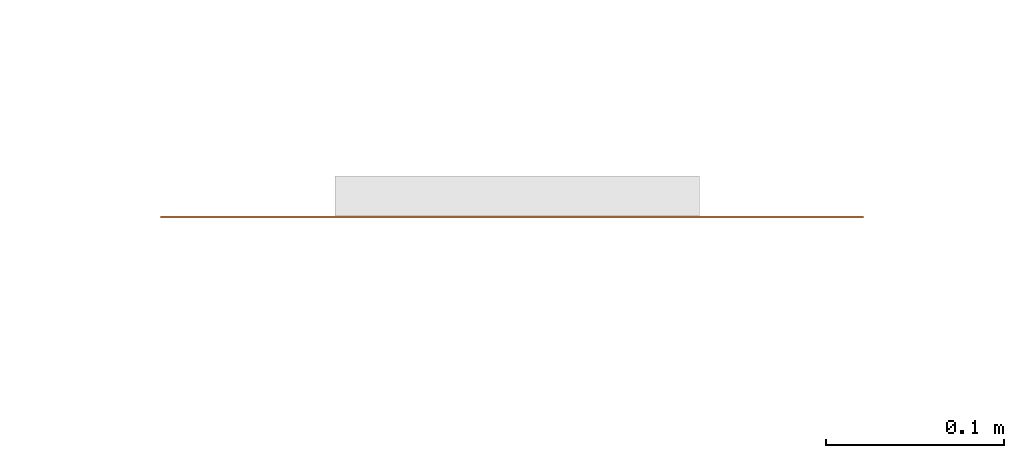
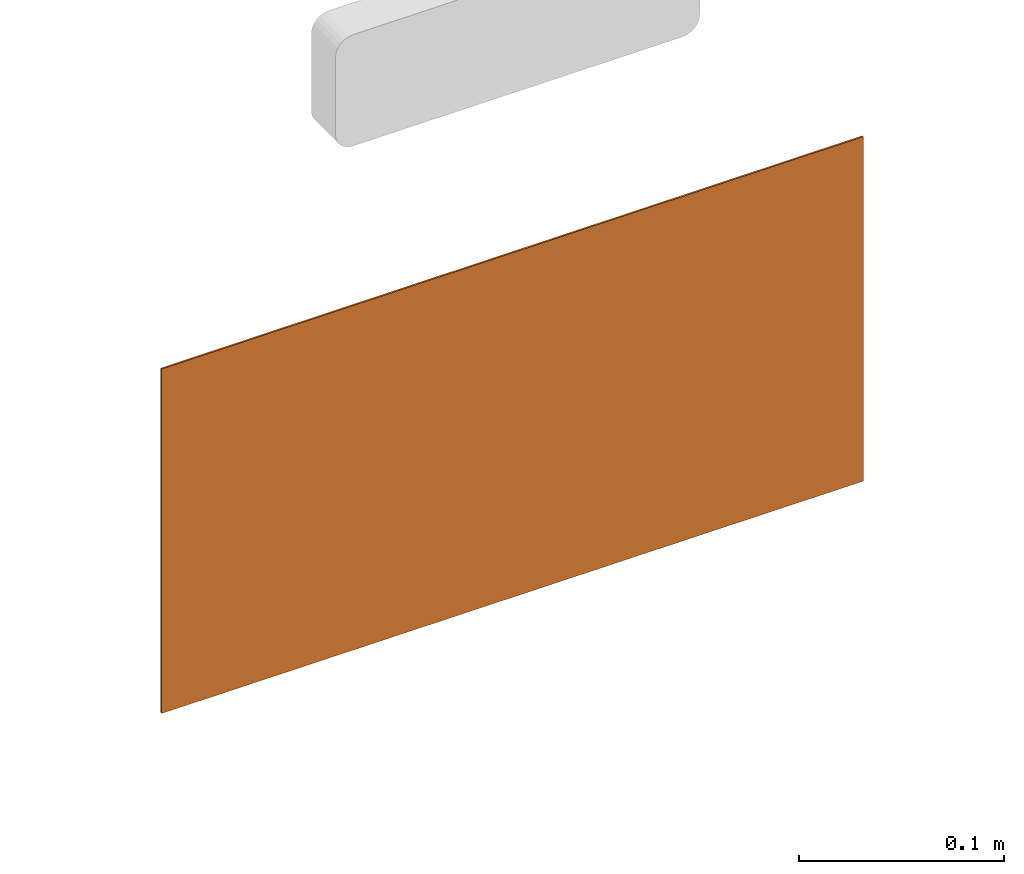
# One storey, part 115 of 119: 1 proxy.
"""IFC2X3 building model written with IfcOpenShell, lengths in metres."""

from ifc_helpers import new_model, entity, si_unit, converted_unit, derived_unit, direction, frame, origin, origin_2d_with_axis, place, context, subcontext, project, spatial, polyline, rectangle, outline, extrude, source, transform, mapped, material, material_list, type_object, type_shapes, element, save


model = new_model("IFC2X3")

# Units and contexts
model_context = context("Model", 3, precision=1e-05, world=origin(), true_north=direction((6.12303176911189e-17, 1.0)))
body_context = subcontext(model_context, "Body", "Model", "MODEL_VIEW")
ifc_project = project(units=[si_unit("LENGTHUNIT", "METRE"), si_unit("AREAUNIT", "SQUARE_METRE"), si_unit("VOLUMEUNIT", "CUBIC_METRE"), converted_unit("PLANEANGLEUNIT", "DEGREE", entity("IfcRatioMeasure", 0.0174532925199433), si_unit("PLANEANGLEUNIT", "RADIAN"), dimensions=[0, 0, 0, 0, 0, 0, 0]), si_unit("MASSUNIT", "GRAM", prefix="KILO"), derived_unit("MASSDENSITYUNIT", [(si_unit("MASSUNIT", "GRAM", prefix="KILO"), 1), (si_unit("LENGTHUNIT", "METRE"), -3)]), derived_unit("MOMENTOFINERTIAUNIT", [(si_unit("LENGTHUNIT", "METRE"), 4)]), si_unit("TIMEUNIT", "SECOND"), si_unit("FREQUENCYUNIT", "HERTZ"), si_unit("THERMODYNAMICTEMPERATUREUNIT", "DEGREE_CELSIUS"), derived_unit("THERMALTRANSMITTANCEUNIT", [(si_unit("MASSUNIT", "GRAM", prefix="KILO"), 1), (si_unit("THERMODYNAMICTEMPERATUREUNIT", "KELVIN"), -1), (si_unit("TIMEUNIT", "SECOND"), -3)]), derived_unit("VOLUMETRICFLOWRATEUNIT", [(si_unit("LENGTHUNIT", "METRE"), 3), (si_unit("TIMEUNIT", "SECOND"), -1)]), si_unit("ELECTRICCURRENTUNIT", "AMPERE"), si_unit("ELECTRICVOLTAGEUNIT", "VOLT"), si_unit("POWERUNIT", "WATT"), si_unit("FORCEUNIT", "NEWTON", prefix="KILO"), si_unit("ILLUMINANCEUNIT", "LUX"), si_unit("LUMINOUSFLUXUNIT", "LUMEN"), si_unit("LUMINOUSINTENSITYUNIT", "CANDELA"), derived_unit("USERDEFINED", [(si_unit("MASSUNIT", "GRAM", prefix="KILO"), -1), (si_unit("LENGTHUNIT", "METRE"), -2), (si_unit("TIMEUNIT", "SECOND"), 3), (si_unit("LUMINOUSFLUXUNIT", "LUMEN"), 1)]), derived_unit("LINEARVELOCITYUNIT", [(si_unit("LENGTHUNIT", "METRE"), 1), (si_unit("TIMEUNIT", "SECOND"), -1)]), si_unit("PRESSUREUNIT", "PASCAL"), derived_unit("USERDEFINED", [(si_unit("LENGTHUNIT", "METRE"), -2), (si_unit("MASSUNIT", "GRAM", prefix="KILO"), 1), (si_unit("TIMEUNIT", "SECOND"), -2)]), derived_unit("LINEARFORCEUNIT", [(si_unit("MASSUNIT", "GRAM", prefix="KILO"), 1), (si_unit("LENGTHUNIT", "METRE"), 1), (si_unit("TIMEUNIT", "SECOND"), -2), (si_unit("LENGTHUNIT", "METRE"), -1)]), derived_unit("PLANARFORCEUNIT", [(si_unit("MASSUNIT", "GRAM", prefix="KILO"), 1), (si_unit("LENGTHUNIT", "METRE"), 1), (si_unit("TIMEUNIT", "SECOND"), -2), (si_unit("LENGTHUNIT", "METRE"), -2)])], contexts=[model_context])

# Site, building, storey
site_placement = place(None, origin())
site = spatial("IfcSite", under=ifc_project, at=site_placement, Name="Default", CompositionType="ELEMENT")
building_placement = place(site_placement, origin())
building = spatial("IfcBuilding", under=site, at=building_placement, CompositionType="ELEMENT")
storey_placement = place(building_placement, origin())
storey = spatial("IfcBuildingStorey", under=building, at=storey_placement, Name="PAV. 01 - TÉRREO", CompositionType="ELEMENT", Elevation=0.0)

# Proxy
ifc_material_1 = material(Name="Plastico branco")
ifc_material_2 = material(Name="Plastico Verde")
ifc_material_list = material_list([ifc_material_1, ifc_material_2])
building_element_proxy_type = type_object("IfcBuildingElementProxyType", Name="Sinalização de orientação - S12 - Saída de emergência:Distância 12m", PredefinedType="NOTDEFINED", material=ifc_material_1)
shared_shape = source(origin(), body_context, "Body", "SweptSolid", [
    extrude(outline(polyline([(0.022665, -0.0273549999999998), (0.042445, -0.0273549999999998), (0.0110050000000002, 0.0634649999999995), (-0.0110349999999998, 0.0634649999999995), (-0.0429350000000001, -0.0273549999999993), (-0.0221550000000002, -0.0273549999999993), (-0.016355, -0.00875499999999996), (0.016365, -0.00875499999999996), (0.022665, -0.0273549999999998)]), holes=[polyline([(-0.0110349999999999, 0.00694499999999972), (8.50000000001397e-05, 0.0430049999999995), (0.011005, 0.00694499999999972), (-0.0110349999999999, 0.00694499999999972)])]), frame((0.137065, -0.0011, 2.284875), z_axis=(0.0, 1.0, 0.0), x_axis=(-1.0, 0.0, 0.0)), (0.0, 0.0, 1.0), 0.0011),
    extrude(outline(polyline([(0.00101999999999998, -0.00920000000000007), (0.01344, -0.00920000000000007), (0.00198000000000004, 0.00920000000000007), (-0.01644, 0.00920000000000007), (0.00101999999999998, -0.00920000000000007)])), frame((0.0041799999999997, -0.0011, 2.36684), z_axis=(0.0, 1.0, 0.0), x_axis=(-1.0, 0.0, 0.0)), (0.0, 0.0, 1.0), 0.0011),
    extrude(rectangle(XDim=0.0011, YDim=0.0186200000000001, at=origin_2d_with_axis()), frame((-0.00221000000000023, -0.00055, 2.25752), z_axis=(0.0, 0.0, 1.0), x_axis=(0.0, 1.0, 0.0)), (0.0, 0.0, 1.0), 0.0908200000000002),
    extrude(outline(polyline([(0.0226224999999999, -0.0273550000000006), (0.0423824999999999, -0.0273550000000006), (0.0109625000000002, 0.0634649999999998), (-0.0110974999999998, 0.0634649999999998), (-0.0425575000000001, -0.0273550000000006), (-0.0222175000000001, -0.0273550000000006), (-0.0164175, -0.0087550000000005), (0.0163224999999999, -0.0087550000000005), (0.0226224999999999, -0.0273550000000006)]), holes=[polyline([(-0.0110975, 0.00694499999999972), (2.25000000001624e-05, 0.0430049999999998), (0.0109625, 0.00694499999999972), (-0.0110975, 0.00694499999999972)])]), frame((-0.0607575, -0.0011, 2.284875), z_axis=(0.0, 1.0, 0.0), x_axis=(-1.0, 0.0, 0.0)), (0.0, 0.0, 1.0), 0.0011),
    extrude(outline(polyline([(-0.0593637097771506, -0.0416627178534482), (-0.0235037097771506, -0.0416627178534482), (-0.0155782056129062, -0.0414882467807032), (-0.00944676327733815, -0.0408437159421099), (-0.00458257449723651, -0.0395474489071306), (-0.000458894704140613, -0.0374178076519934), (0.00332259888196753, -0.0343505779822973), (0.00676252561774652, -0.0304813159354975), (0.00978475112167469, -0.0259918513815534), (0.0123131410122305, -0.0210640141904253), (0.0142715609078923, -0.0158796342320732), (0.0156118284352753, -0.0106067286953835), (0.0164003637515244, -0.00535668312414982), (0.0167329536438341, -0.000226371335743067), (0.0167053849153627, 0.00468733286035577), (0.0164134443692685, 0.00928755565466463), (0.015941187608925, 0.013495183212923), (0.015248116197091, 0.0174196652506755), (0.0142186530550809, 0.0212841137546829), (0.0127361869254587, 0.0253132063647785), (0.0106841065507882, 0.0297316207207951), (0.00791520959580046, 0.0347197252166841), (0.00390106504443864, 0.0399057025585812), (-0.00214544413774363, 0.0445430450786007), (-0.0110163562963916, 0.0478781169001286), (-0.0235037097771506, 0.0491572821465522), (-0.0593637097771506, 0.0491572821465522), (-0.0593637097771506, -0.0416627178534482)]), holes=[polyline([(-0.0407237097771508, 0.0334572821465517), (-0.0235037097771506, 0.0334572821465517), (-0.0184804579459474, 0.0328719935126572), (-0.0143606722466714, 0.0313003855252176), (-0.01104861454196, 0.0290188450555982), (-0.00844854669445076, 0.0263037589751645), (-0.00646492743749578, 0.0234093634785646), (-0.00500366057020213, 0.0204273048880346), (-0.00397129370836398, 0.0173767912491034), (-0.00327437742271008, 0.0142766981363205), (-0.00281946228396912, 0.011145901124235), (-0.00251671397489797, 0.00800245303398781), (-0.00233816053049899, 0.0048503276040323), (-0.0023077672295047, 0.00168167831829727), (-0.00245111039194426, -0.00151170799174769), (-0.00279376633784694, -0.00473804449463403), (-0.00336131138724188, -0.00800554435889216), (-0.00418197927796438, -0.011308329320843), (-0.0053013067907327, -0.014548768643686), (-0.00677175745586, -0.0175925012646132), (-0.00864581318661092, -0.020305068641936), (-0.0109759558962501, -0.022552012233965), (-0.0137994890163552, -0.0242105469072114), (-0.0169857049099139, -0.0252871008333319), (-0.0202993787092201, -0.0258684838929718), (-0.0235037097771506, -0.0260427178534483), (-0.0407237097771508, -0.0260427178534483), (-0.0407237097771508, 0.0334572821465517)])]), frame((0.0799837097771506, -0.0011, 2.30667728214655), z_axis=(0.0, 1.0, 0.0), x_axis=(1.0, 0.0, 0.0)), (0.0, 0.0, 1.0), 0.0011),
    extrude(outline(polyline([(-0.0345626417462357, 0.0187657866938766), (-0.0167626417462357, 0.0187657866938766), (-0.0160026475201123, 0.021720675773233), (-0.0150953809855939, 0.0241733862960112), (-0.0140440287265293, 0.0261781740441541), (-0.012851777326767, 0.0277892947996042), (-0.0115218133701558, 0.0290610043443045), (-0.0100573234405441, 0.0300475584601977), (-0.00846149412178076, 0.0308032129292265), (-0.00673751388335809, 0.0313822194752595), (-0.00489394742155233, 0.0318272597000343), (-0.00295651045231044, 0.0321441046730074), (-0.000954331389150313, 0.0323311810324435), (0.00108346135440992, 0.0323869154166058), (0.00312773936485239, 0.0323097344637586), (0.00514937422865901, 0.0320980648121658), (0.00711923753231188, 0.031750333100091), (0.00900820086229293, 0.0312649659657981), (0.010785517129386, 0.0306342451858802), (0.0124132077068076, 0.0298229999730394), (0.0138512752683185, 0.0287883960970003), (0.0150597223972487, 0.0274875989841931), (0.0159985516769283, 0.0258777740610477), (0.0166277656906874, 0.023916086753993), (0.016907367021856, 0.0215597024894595), (0.0167973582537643, 0.0187657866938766), (0.0162828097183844, 0.0172001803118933), (0.015351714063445, 0.0158433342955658), (0.0140362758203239, 0.0146686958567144), (0.0123686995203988, 0.013649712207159), (0.0103811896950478, 0.0127598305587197), (0.00810595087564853, 0.0119724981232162), (0.0055751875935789, 0.0112611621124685), (0.00282110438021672, 0.0105992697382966), (-0.0097799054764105, 0.00791382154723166), (-0.0131404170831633, 0.0070931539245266), (-0.0164874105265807, 0.00615022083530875), (-0.0197677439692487, 0.00505251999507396), (-0.0229282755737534, 0.00376754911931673), (-0.0259158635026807, 0.00226280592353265), (-0.0286773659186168, 0.000505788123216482), (-0.0311596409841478, -0.00153600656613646), (-0.0333095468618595, -0.00389508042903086), (-0.0350739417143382, -0.00660393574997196), (-0.0363996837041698, -0.00969507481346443), (-0.0372336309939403, -0.0132009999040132), (-0.0375226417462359, -0.0171542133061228), (-0.0369526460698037, -0.0241320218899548), (-0.0352963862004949, -0.0300763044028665), (-0.0326321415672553, -0.0350438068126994), (-0.0290381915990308, -0.0390912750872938), (-0.0245928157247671, -0.0422754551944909), (-0.0193742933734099, -0.0446530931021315), (-0.0134609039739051, -0.0462809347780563), (-0.00693092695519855, -0.0472157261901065), (0.000137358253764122, -0.0475142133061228), (0.00635452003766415, -0.0471678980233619), (0.0122978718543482, -0.0461110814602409), (0.0178453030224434, -0.0443239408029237), (0.0228747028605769, -0.0417866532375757), (0.0272639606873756, -0.0384793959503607), (0.0308909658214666, -0.0343823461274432), (0.033633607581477, -0.0294756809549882), (0.0353697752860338, -0.0237395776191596), (0.0359773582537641, -0.0171542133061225), (0.017837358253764, -0.0171542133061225), (0.0175636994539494, -0.0202050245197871), (0.0167888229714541, -0.0228103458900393), (0.0155818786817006, -0.0250059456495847), (0.0140120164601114, -0.0268275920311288), (0.0121483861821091, -0.0283110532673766), (0.0100601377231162, -0.0294920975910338), (0.00781642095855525, -0.0304064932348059), (0.00548638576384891, -0.0310900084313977), (0.00313811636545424, -0.0315777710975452), (0.000813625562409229, -0.0318892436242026), (-0.0014720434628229, -0.0320276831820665), (-0.00370509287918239, -0.0319955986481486), (-0.0058717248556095, -0.0317954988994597), (-0.0079581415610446, -0.0314298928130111), (-0.0099505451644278, -0.0309012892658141), (-0.0118351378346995, -0.0302121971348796), (-0.0135981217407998, -0.0293651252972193), (-0.015220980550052, -0.028358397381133), (-0.0166571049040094, -0.0271654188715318), (-0.0178495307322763, -0.0257504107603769), (-0.0187412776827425, -0.0240775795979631), (-0.019275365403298, -0.0221111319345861), (-0.0193948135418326, -0.0198152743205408), (-0.019042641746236, -0.0171542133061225), (-0.0182619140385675, -0.0153706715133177), (-0.0167498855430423, -0.0138072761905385), (-0.014644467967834, -0.0124427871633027), (-0.0120835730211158, -0.0112559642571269), (-0.00920511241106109, -0.0102255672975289), (-0.00614699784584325, -0.00933035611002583), (-0.00304714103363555, -0.0085490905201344), (0.00854519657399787, -0.00601654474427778), (0.0112531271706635, -0.00536949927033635), (0.0138997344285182, -0.00465127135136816), (0.0164923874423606, -0.00382905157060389), (0.0190384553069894, -0.00287003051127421), (0.021545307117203, -0.00174139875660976), (0.024010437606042, -0.000408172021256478), (0.0263792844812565, 0.00117609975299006), (0.0285801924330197, 0.00306163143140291), (0.0305414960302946, 0.00529864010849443), (0.0321915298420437, 0.00793734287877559), (0.0334586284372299, 0.0110279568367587), (0.0342711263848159, 0.0146206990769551), (0.0345573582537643, 0.0187657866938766), (0.0342104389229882, 0.0241388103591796), (0.0331330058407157, 0.0291645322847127), (0.0312655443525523, 0.0337668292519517), (0.0285485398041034, 0.0378695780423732), (0.0249224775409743, 0.0413966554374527), (0.0203278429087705, 0.0442719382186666), (0.0147051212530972, 0.0464193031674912), (0.00799479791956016, 0.0477626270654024), (0.000137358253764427, 0.0482257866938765), (-0.00858861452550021, 0.047492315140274), (-0.0161916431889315, 0.0453797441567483), (-0.0225917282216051, 0.0420205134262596), (-0.0277088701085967, 0.0375470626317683), (-0.0314630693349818, 0.032091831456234), (-0.0337743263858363, 0.0257872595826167), (-0.0345626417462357, 0.0187657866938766)])), frame((-0.144022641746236, -0.0011, 2.30259421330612), z_axis=(0.0, 1.0, 0.0), x_axis=(-1.0, 0.0, 0.0)), (0.0, 0.0, 1.0), 0.0011),
    extrude(rectangle(XDim=0.001, YDim=0.38, at=origin_2d_with_axis()), frame((0.0, -0.0005, 2.2075), z_axis=(0.0, 0.0, 1.0), x_axis=(0.0, 1.0, 0.0)), (0.0, 0.0, 1.0), 0.190000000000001),
    extrude(outline(polyline([(-0.102500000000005, -0.197499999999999), (0.102500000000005, -0.197499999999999), (0.102500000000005, 0.197499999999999), (-0.102500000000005, 0.197499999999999), (-0.102500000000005, -0.197499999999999)]), holes=[polyline([(-0.094999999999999, -0.189999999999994), (-0.094999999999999, 0.190000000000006), (0.0950000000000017, 0.190000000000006), (0.0950000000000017, -0.189999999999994), (-0.094999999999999, -0.189999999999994)])]), frame((0.0, -0.001, 2.30250000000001), z_axis=(0.0, 1.0, 0.0), x_axis=(0.0, 0.0, -1.0)), (0.0, 0.0, 1.0), 0.001),
])
type_shapes(building_element_proxy_type, [shared_shape])
proxy_placement = place(storey_placement, frame((21.9240605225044, 66.9567778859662, 0.0), z_axis=(0.0, 0.0, 1.0), x_axis=(-1.0, 0.0, 0.0)))
element("IfcBuildingElementProxy", 1, at=proxy_placement, inside=storey, type_object=building_element_proxy_type, material=ifc_material_list, Name="Sinalização de orientação - S12 - Saída de emergência:Distância 12m", ObjectType="Sinalização de orientação - S12 - Saída de emergência:Distância 12m", context=body_context, shape_type="MappedRepresentation", body=[
    mapped(shared_shape, transform((0.0, 0.0, 0.0), scale=1.0)),
])

save(model, "model.ifc")
